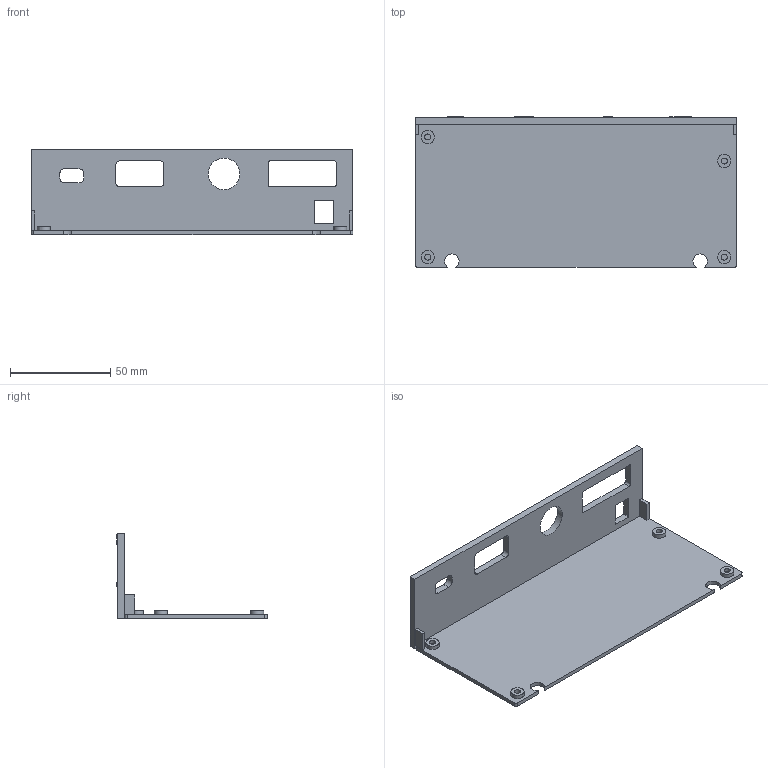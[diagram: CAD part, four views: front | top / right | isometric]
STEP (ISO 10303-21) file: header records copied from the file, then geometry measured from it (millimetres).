
FILE_DESCRIPTION(('Open CASCADE Model'),'2;1');
FILE_NAME('Open CASCADE Shape Model','2026-11-07T14:43:28',('Author'),( 'Open CASCADE'),'Open CASCADE STEP processor 7.9','Open CASCADE 7.9' ,'Unknown');
FILE_SCHEMA(('AUTOMOTIVE_DESIGN { 1 0 10303 214 1 1 1 1 }'));
Length unit declared in the file: millimetre
Products named in the file (1): Open CASCADE STEP translator 7.9 8
Bounding box: 160.4 x 75 x 42.5 mm (x, y, z)
Volume: 42891 mm3; surface area: 37887.3 mm2
Topology: 1 solids, 1 shells, 438 faces, 1196 edges, 796 vertices
Faces by surface type: plane 215, extrusion 192, cylinder 31
Full cylindrical faces by diameter (mm): 3 x4, 6.6 x4, 15.8 x1
Entity records: 29535 total; most frequent: CARTESIAN_POINT 6921, DIRECTION 3467, VECTOR 2796, LINE 2604, ORIENTED_EDGE 2392, PCURVE 2392, DEFINITIONAL_REPRESENTATION 2392, EDGE_CURVE 1196
